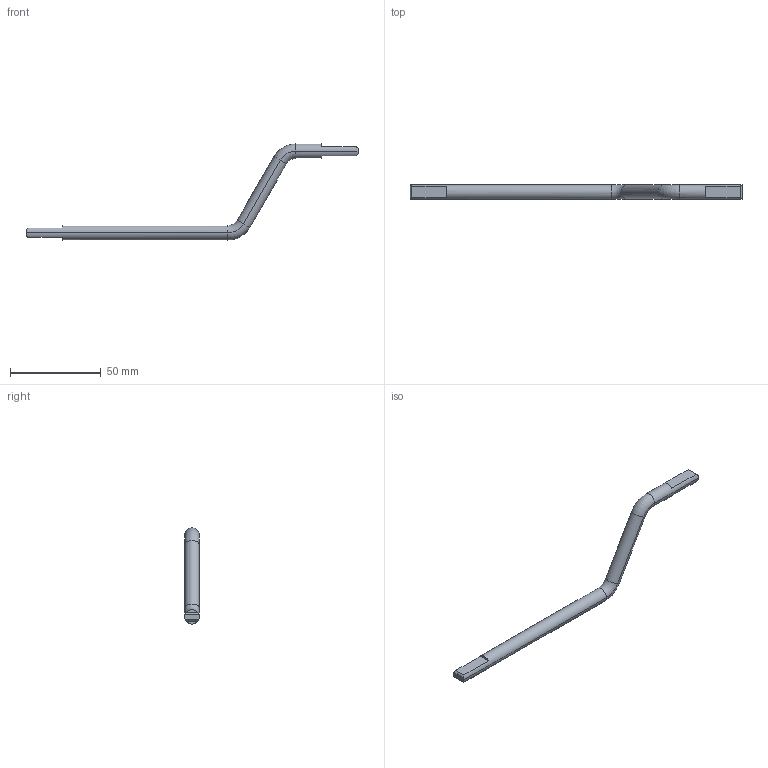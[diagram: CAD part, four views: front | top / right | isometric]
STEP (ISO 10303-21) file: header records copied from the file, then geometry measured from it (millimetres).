
FILE_DESCRIPTION(('CATIA V5 STEP Exchange'),'2;1');
FILE_NAME('D:\交接\张长江\21-Benz H6\光华荣昌转盘数据\H6 转盘\转盘用整椅数据 A9609109920\sample\H6 转盘夏季测试样件方案_20240617\样件数据\弹簧和钢丝\SHT0017294-104 转盘解锁杆.stp','2024-06-19T08:18:14+00:00',('none'),('none'),'CATIA Version 5 Release 20 GA (IN-10)','CATIA V5 STEP AP203 Edition 2','none');
FILE_SCHEMA(('AP203_CONFIGURATION_CONTROLLED_3D_DESIGN_OF_MECHANICAL_PARTS_AND_ASSEMBLIES_MIM_LF { 1 0 10303 403 2 1 2}'));
Length unit declared in the file: millimetre
Products named in the file (1): SHT0017294-10
Bounding box: 183 x 8 x 53 mm (x, y, z)
Volume: 9861.1 mm3; surface area: 5206.8 mm2
Topology: 1 solids, 1 shells, 24 faces, 58 edges, 36 vertices
Faces by surface type: plane 14, cylinder 6, torus 4
Entity records: 676 total; most frequent: CARTESIAN_POINT 137, ORIENTED_EDGE 116, DIRECTION 83, EDGE_CURVE 58, AXIS2_PLACEMENT_3D 42, VERTEX_POINT 36, VECTOR 25, LINE 25
